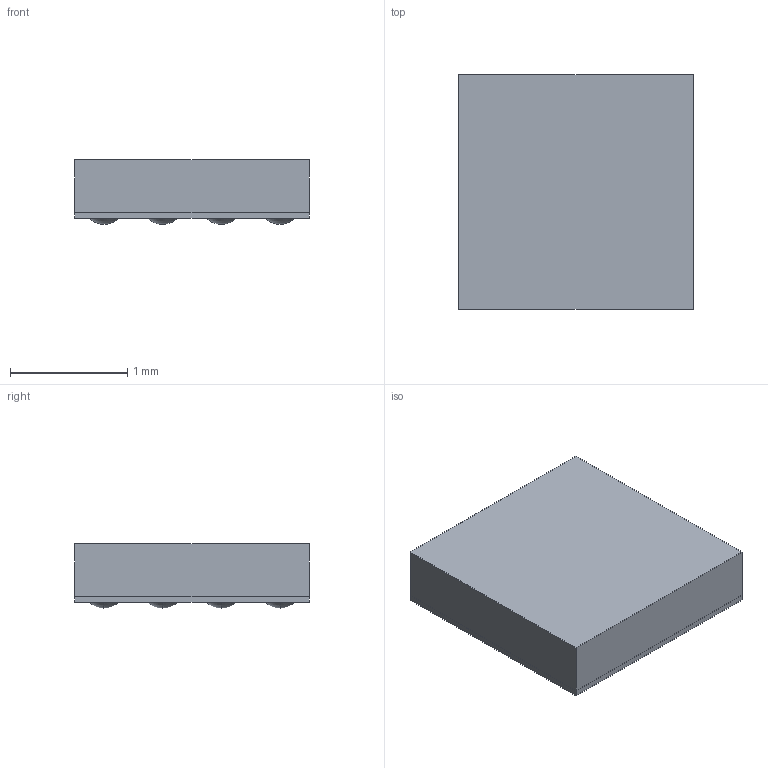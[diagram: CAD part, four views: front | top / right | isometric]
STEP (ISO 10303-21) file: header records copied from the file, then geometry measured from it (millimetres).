
FILE_DESCRIPTION((''),'2;1');
FILE_NAME('ZSZ0016A_ASM','2016-06-03T',('a0412086'),(''),'CREO PARAMETRIC BY PTC INC, 2016050','CREO PARAMETRIC BY PTC INC, 2016050','');
FILE_SCHEMA(('AUTOMOTIVE_DESIGN { 1 0 10303 214 1 1 1 1 }'));
Length unit declared in the file: millimetre
Products named in the file (5): BODY; PI; SOLDER_BALL; PIN1_AREA; ZSZ0016A_ASM
Assembly tree (19 placements, depth 2):
  ZSZ0016A_ASM
    BODY
    PI
    SOLDER_BALL  x16
    PIN1_AREA
Bounding box: 2 x 2 x 0.55 mm (x, y, z)
Volume: 2 mm3; surface area: 21.7 mm2
Topology: 18 solids, 18 shells, 60 faces, 120 edges, 64 vertices
Faces by surface type: sphere 32, plane 28
Entity records: 1455 total; most frequent: PROPERTY_DEFINITION 139, REPRESENTATION 130, PROPERTY_DEFINITION_REPRESENTATION 130, CARTESIAN_POINT 111, DIRECTION 110, GENERAL_PROPERTY 84, GENERAL_PROPERTY_ASSOCIATION 84, DESCRIPTIVE_REPRESENTATION_ITEM 78
